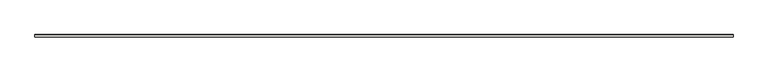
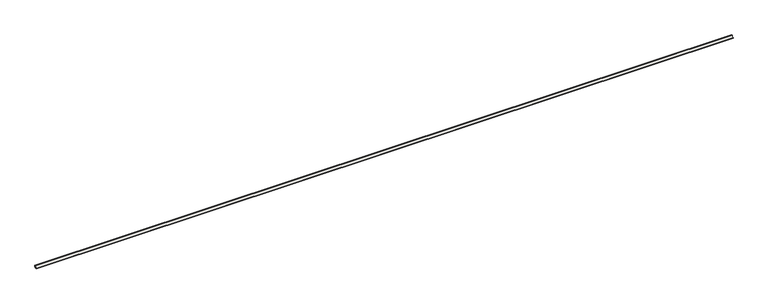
"""IFC4 building model written with IfcOpenShell, lengths in millimetres: slab geometry, ROSA GRES_112 : Pieza 112_Aqua_Marino_Liso."""

from ifc_helpers import new_model, si_unit, point, frame, frame_2d, origin, place, context, project, spatial, polyline, circle_curve, trimmed, segment, composite_curve, outline, extrude, source, transform, mapped, element, save


def slab_5cd8baa9(model_context):
    return source(origin(), model_context, "Body", "SweptSolid", [
        extrude(outline(composite_curve([segment(polyline([(0.0, 8.7114978), (-8.7114978, 0.0), (-40.0, 0.0), (-40.0, 9.9734114)]), True, "CONTINUOUS"), segment(trimmed(circle_curve(frame_2d((-39.9955547, 39.9955547)), 30.0221435), [point((-40.0, 9.9734114))], [point((-9.9734114, 40.0))], True, "CARTESIAN"), True, "CONTINUOUS"), segment(polyline([(-9.9734114, 40.0), (0.0, 40.0), (0.0, 8.7114978)]), True, "CONTINUOUS")], self_intersect=False)), frame((0.0, 0.0, 0.0), z_axis=(1.0, 0.0, 0.0), x_axis=(0.0, 1.0, 0.0)), (0.0, 0.0, 1.0), 12000.0),
    ])


if __name__ == "__main__":
    model = new_model("IFC4")
    model_context = context("Model", 3, world=origin())
    ifc_project = project(units=[si_unit("LENGTHUNIT", "METRE", prefix="MILLI")], contexts=[model_context])
    site = spatial("IfcSite", under=ifc_project)
    building = spatial("IfcBuilding", under=site)
    placement = place(None, origin())
    slab_shape = slab_5cd8baa9(model_context)
    element("IfcSlab", 1, ObjectType="ROSA GRES_112 : Pieza 112_Aqua_Marino_Liso", at=placement, inside=building, context=model_context, shape_type="MappedRepresentation", body=[
        mapped(slab_shape, transform((0.0, 0.0, 0.0), x_axis=(1.0, 0.0, 0.0), y_axis=(0.0, 1.0, 0.0), z_axis=(0.0, 0.0, 1.0))),
    ])
    save(model, "model.ifc")
